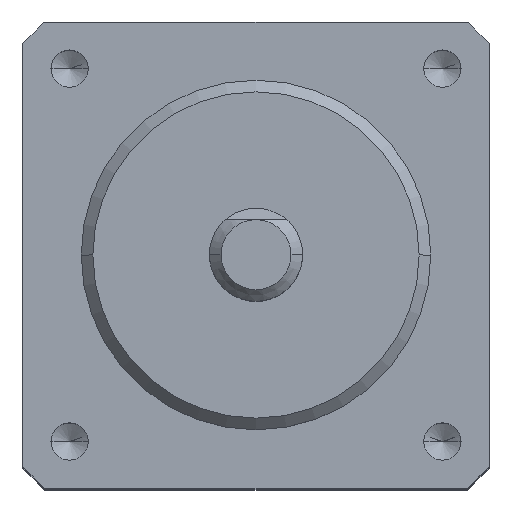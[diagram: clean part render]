
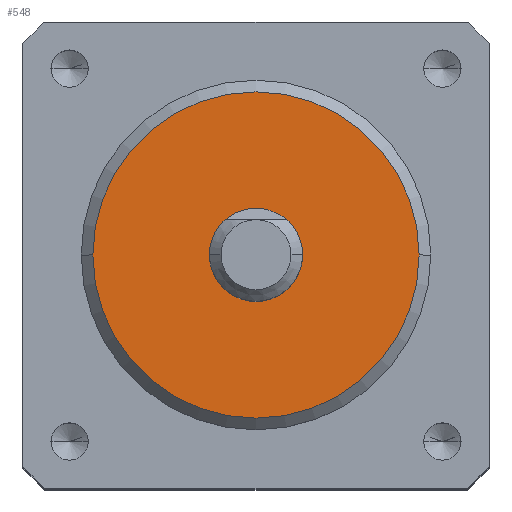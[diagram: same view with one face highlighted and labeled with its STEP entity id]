
A CAD part, top view. The second image highlights one B-rep face of the part: STEP entity #548.
In plain terms, the highlighted planar face has unit normal (0, 0, 1).
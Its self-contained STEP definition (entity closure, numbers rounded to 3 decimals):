
#40 = EDGE_LOOP ( 'NONE', ( #2066, #1907 ) ) ;
#46 = EDGE_CURVE ( 'NONE', #3056, #748, #768, .T. ) ;
#217 = VERTEX_POINT ( 'NONE', #2701 ) ;
#365 = AXIS2_PLACEMENT_3D ( 'NONE', #496, #2247, #757 ) ;
#388 = FACE_OUTER_BOUND ( 'NONE', #40, .T. ) ;
#496 = CARTESIAN_POINT ( 'NONE',  ( 0., 0., 1.5 ) ) ;
#545 = PLANE ( 'NONE',  #3044 ) ;
#548 = ADVANCED_FACE ( 'NONE', ( #388, #1670 ), #545, .T. ) ;
#659 = CARTESIAN_POINT ( 'NONE',  ( 0., 0., 1.5 ) ) ;
#748 = VERTEX_POINT ( 'NONE', #2235 ) ;
#757 = DIRECTION ( 'NONE',  ( 1., 0., 0. ) ) ;
#768 = CIRCLE ( 'NONE', #887, 7. ) ;
#887 = AXIS2_PLACEMENT_3D ( 'NONE', #2140, #2129, #2120 ) ;
#1030 = ORIENTED_EDGE ( 'NONE', *, *, #1220, .T. ) ;
#1038 = CARTESIAN_POINT ( 'NONE',  ( 7., 0., 1.5 ) ) ;
#1088 = CIRCLE ( 'NONE', #1233, 2. ) ;
#1220 = EDGE_CURVE ( 'NONE', #2320, #217, #1088, .T. ) ;
#1233 = AXIS2_PLACEMENT_3D ( 'NONE', #659, #3110, #2892 ) ;
#1437 = CARTESIAN_POINT ( 'NONE',  ( 0., 0., 1.5 ) ) ;
#1670 = FACE_BOUND ( 'NONE', #1984, .T. ) ;
#1689 = DIRECTION ( 'NONE',  ( 1., 0., 0. ) ) ;
#1715 = AXIS2_PLACEMENT_3D ( 'NONE', #1437, #3126, #1689 ) ;
#1907 = ORIENTED_EDGE ( 'NONE', *, *, #46, .T. ) ;
#1933 = CIRCLE ( 'NONE', #1715, 7. ) ;
#1976 = ORIENTED_EDGE ( 'NONE', *, *, #1983, .T. ) ;
#1983 = EDGE_CURVE ( 'NONE', #217, #2320, #3199, .T. ) ;
#1984 = EDGE_LOOP ( 'NONE', ( #1976, #1030 ) ) ;
#2066 = ORIENTED_EDGE ( 'NONE', *, *, #2431, .T. ) ;
#2120 = DIRECTION ( 'NONE',  ( 1., 0., 0. ) ) ;
#2129 = DIRECTION ( 'NONE',  ( 0., 0., 1. ) ) ;
#2140 = CARTESIAN_POINT ( 'NONE',  ( 0., 0., 1.5 ) ) ;
#2235 = CARTESIAN_POINT ( 'NONE',  ( -7., 0., 1.5 ) ) ;
#2247 = DIRECTION ( 'NONE',  ( 0., 0., -1. ) ) ;
#2320 = VERTEX_POINT ( 'NONE', #2613 ) ;
#2431 = EDGE_CURVE ( 'NONE', #748, #3056, #1933, .T. ) ;
#2459 = DIRECTION ( 'NONE',  ( 1., 0., 0. ) ) ;
#2485 = DIRECTION ( 'NONE',  ( 0., 0., 1. ) ) ;
#2613 = CARTESIAN_POINT ( 'NONE',  ( 2., 0., 1.5 ) ) ;
#2701 = CARTESIAN_POINT ( 'NONE',  ( -2., 0., 1.5 ) ) ;
#2892 = DIRECTION ( 'NONE',  ( 1., 0., 0. ) ) ;
#3044 = AXIS2_PLACEMENT_3D ( 'NONE', #3168, #2485, #2459 ) ;
#3056 = VERTEX_POINT ( 'NONE', #1038 ) ;
#3110 = DIRECTION ( 'NONE',  ( 0., 0., -1. ) ) ;
#3126 = DIRECTION ( 'NONE',  ( 0., 0., 1. ) ) ;
#3168 = CARTESIAN_POINT ( 'NONE',  ( 0., 0., 1.5 ) ) ;
#3199 = CIRCLE ( 'NONE', #365, 2. ) ;
